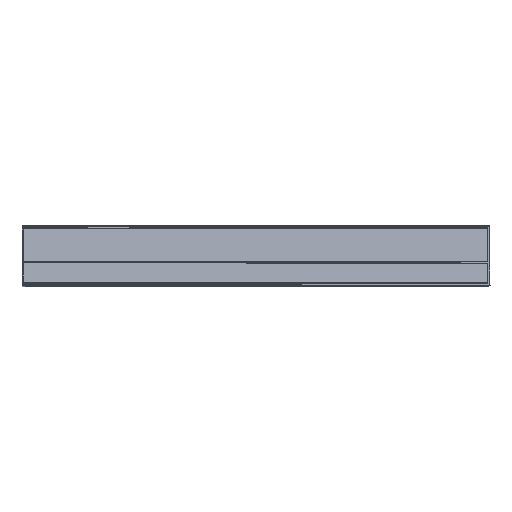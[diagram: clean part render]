
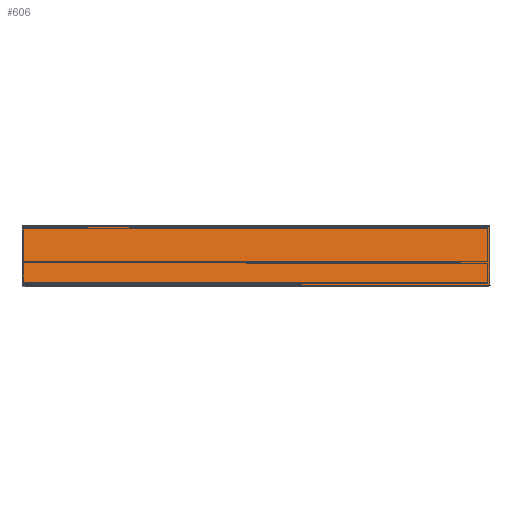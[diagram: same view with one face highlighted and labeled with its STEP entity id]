
A CAD part, top view. The second image highlights one B-rep face of the part: STEP entity #606.
In plain terms, the highlighted planar face has unit normal (0.5, 0, 0.866) as drawn and (-1, 0, 0) by its records, which use the part's own axes.
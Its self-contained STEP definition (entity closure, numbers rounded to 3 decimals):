
#606=ADVANCED_FACE('',(#2624),#2626,.T.);
#2624=FACE_BOUND('',#2625,.T.);
#2625=EDGE_LOOP('',(#6794,#6795,#6796,#6797));
#2626=PLANE('',#2627);
#2627=AXIS2_PLACEMENT_3D('',#2628,#2629,#2630);
#2628=CARTESIAN_POINT('',(-25.,4.,-311.5));
#2629=DIRECTION('',(-1.,0.,0.));
#2630=DIRECTION('',(0.,-1.,0.));
#6794=ORIENTED_EDGE('',*,*,#9535,.T.);
#6795=ORIENTED_EDGE('',*,*,#9726,.T.);
#6796=ORIENTED_EDGE('',*,*,#9727,.T.);
#6797=ORIENTED_EDGE('',*,*,#9728,.F.);
#9535=EDGE_CURVE('',#11715,#11712,#11716,.F.);
#9726=EDGE_CURVE('',#11712,#12094,#12096,.T.);
#9727=EDGE_CURVE('',#12094,#12097,#12098,.F.);
#9728=EDGE_CURVE('',#11715,#12097,#12099,.T.);
#11712=VERTEX_POINT('',#16190);
#11715=VERTEX_POINT('',#16196);
#11716=LINE('',#16197,#16198);
#12094=VERTEX_POINT('',#17074);
#12096=LINE('',#17079,#17080);
#12097=VERTEX_POINT('',#17082);
#12098=LINE('',#17083,#17084);
#12099=LINE('',#17086,#17087);
#16190=CARTESIAN_POINT('',(-25.,-63.75,-311.5));
#16196=CARTESIAN_POINT('',(-25.,4.,-311.5));
#16197=CARTESIAN_POINT('',(-25.,-63.75,-311.5));
#16198=VECTOR('',#16199,1.);
#16199=DIRECTION('',(0.,1.,0.));
#17074=CARTESIAN_POINT('',(-25.,-63.75,311.5));
#17079=CARTESIAN_POINT('',(-25.,-63.75,-311.5));
#17080=VECTOR('',#17081,1.);
#17081=DIRECTION('',(0.,0.,1.));
#17082=CARTESIAN_POINT('',(-25.,4.,311.5));
#17083=CARTESIAN_POINT('',(-25.,4.,311.5));
#17084=VECTOR('',#17085,1.);
#17085=DIRECTION('',(0.,-1.,0.));
#17086=CARTESIAN_POINT('',(-25.,4.,-311.5));
#17087=VECTOR('',#17088,1.);
#17088=DIRECTION('',(0.,0.,1.));
